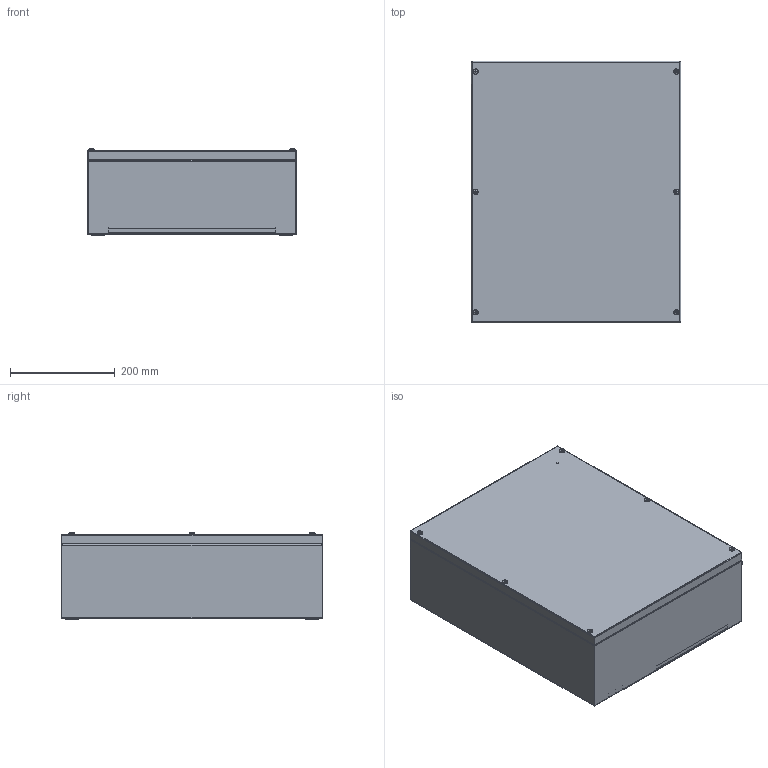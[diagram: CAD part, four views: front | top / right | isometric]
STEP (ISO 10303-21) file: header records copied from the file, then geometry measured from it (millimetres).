
FILE_DESCRIPTION (( 'STEP AP203' ), '1' );
FILE_NAME ('SS JB-500 x 400 x 161-ASSEMBLY.STEP', '2020-03-13T11:33:26', ( '' ), ( '' ), 'SwSTEP 2.0', 'SolidWorks 2018', '' );
FILE_SCHEMA (( 'CONFIG_CONTROL_DESIGN' ));
Length unit declared in the file: millimetre
Products named in the file (7): SS JB-500 x 400 x 161-BASE_500 x 400 x 161; M5 BLIND NUTSERT; Dinral Mounting Channel-400; SS JB-500 x 400 x 161-LID; SS JB-500 x 400 x 161-ASSEMBLY; PLASTIC INSERT FOR FABRICATED ENCLOSURE; M5X33 LID SCREW
Assembly tree (22 placements, depth 2):
  SS JB-500 x 400 x 161-ASSEMBLY
    SS JB-500 x 400 x 161-BASE_500 x 400 x 161
    Dinral Mounting Channel-400  x2
    SS JB-500 x 400 x 161-LID
    M5 BLIND NUTSERT  x6
    M5X33 LID SCREW  x6
    PLASTIC INSERT FOR FABRICATED ENCLOSURE  x6
Bounding box: 400 x 500 x 167.66 mm (x, y, z)
Volume: 942801.3 mm3; surface area: 1540118.3 mm2
Topology: 22 solids, 22 shells, 975 faces, 2382 edges, 1496 vertices
Faces by surface type: cylinder 454, plane 317, cone 156, bspline 36, sphere 12
Entity records: 16647 total; most frequent: CARTESIAN_POINT 5126, ORIENTED_EDGE 2160, DIRECTION 2063, EDGE_CURVE 1080, AXIS2_PLACEMENT_3D 732, VERTEX_POINT 658, LINE 599, VECTOR 599
